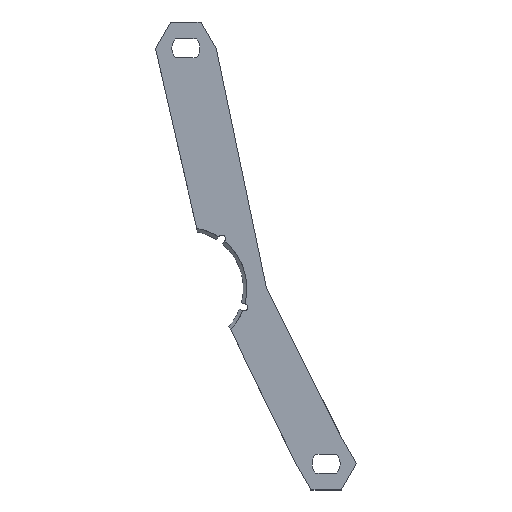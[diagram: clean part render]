
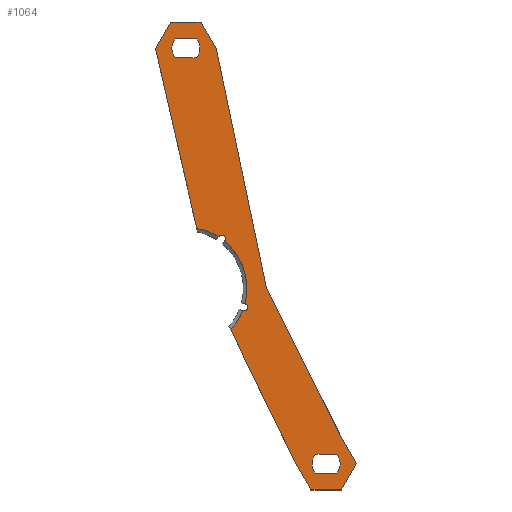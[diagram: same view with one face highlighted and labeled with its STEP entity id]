
A CAD part, top view. The second image highlights one B-rep face of the part: STEP entity #1064.
In plain terms, the highlighted planar face has unit normal (0, 0, 1) as drawn and (0, 0, -1) by its records, which use the part's own axes.
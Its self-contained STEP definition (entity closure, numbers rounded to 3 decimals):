
#41=FACE_BOUND('',#240,.T.);
#42=FACE_BOUND('',#241,.T.);
#92=CIRCLE('',#1086,8.);
#94=CIRCLE('',#1090,8.);
#96=CIRCLE('',#1094,8.);
#98=CIRCLE('',#1098,8.);
#100=CIRCLE('',#1102,2.);
#103=CIRCLE('',#1109,2.);
#107=CIRCLE('',#1121,34.84);
#114=CIRCLE('',#1134,34.84);
#118=CIRCLE('',#1145,34.84);
#185=FACE_OUTER_BOUND('',#239,.T.);
#239=EDGE_LOOP('',(#960,#961,#962,#963,#964,#965,#966,#967,#968,#969,#970,
#971,#972,#973,#974,#975,#976,#977,#978,#979));
#240=EDGE_LOOP('',(#980,#981,#982,#983));
#241=EDGE_LOOP('',(#984,#985,#986,#987));
#244=LINE('',#1459,#334);
#248=LINE('',#1471,#338);
#252=LINE('',#1483,#342);
#256=LINE('',#1495,#346);
#262=LINE('',#1527,#352);
#266=LINE('',#1539,#356);
#274=LINE('',#1606,#364);
#278=LINE('',#1618,#368);
#294=LINE('',#1835,#384);
#308=LINE('',#1863,#398);
#311=LINE('',#1868,#401);
#319=LINE('',#1885,#409);
#322=LINE('',#1890,#412);
#323=LINE('',#1892,#413);
#324=LINE('',#1895,#414);
#326=LINE('',#1898,#416);
#327=LINE('',#1901,#417);
#329=LINE('',#1905,#419);
#331=LINE('',#1908,#421);
#334=VECTOR('',#1185,10.);
#338=VECTOR('',#1197,10.);
#342=VECTOR('',#1209,10.);
#346=VECTOR('',#1221,10.);
#352=VECTOR('',#1235,10.);
#356=VECTOR('',#1247,10.);
#364=VECTOR('',#1261,10.);
#368=VECTOR('',#1273,10.);
#384=VECTOR('',#1363,10.);
#398=VECTOR('',#1383,10.);
#401=VECTOR('',#1388,10.);
#409=VECTOR('',#1402,10.);
#412=VECTOR('',#1407,10.);
#413=VECTOR('',#1410,10.);
#414=VECTOR('',#1413,10.);
#416=VECTOR('',#1417,10.);
#417=VECTOR('',#1420,10.);
#419=VECTOR('',#1424,10.);
#421=VECTOR('',#1428,10.);
#424=VERTEX_POINT('',#1456);
#425=VERTEX_POINT('',#1458);
#427=VERTEX_POINT('',#1464);
#429=VERTEX_POINT('',#1470);
#432=VERTEX_POINT('',#1480);
#433=VERTEX_POINT('',#1482);
#435=VERTEX_POINT('',#1488);
#437=VERTEX_POINT('',#1494);
#446=VERTEX_POINT('',#1524);
#447=VERTEX_POINT('',#1526);
#449=VERTEX_POINT('',#1532);
#451=VERTEX_POINT('',#1538);
#466=VERTEX_POINT('',#1603);
#467=VERTEX_POINT('',#1605);
#469=VERTEX_POINT('',#1611);
#471=VERTEX_POINT('',#1617);
#485=VERTEX_POINT('',#1703);
#494=VERTEX_POINT('',#1746);
#503=VERTEX_POINT('',#1834);
#513=VERTEX_POINT('',#1860);
#514=VERTEX_POINT('',#1862);
#515=VERTEX_POINT('',#1866);
#520=VERTEX_POINT('',#1882);
#521=VERTEX_POINT('',#1884);
#522=VERTEX_POINT('',#1888);
#523=VERTEX_POINT('',#1894);
#524=VERTEX_POINT('',#1900);
#525=VERTEX_POINT('',#1904);
#528=EDGE_CURVE('',#425,#424,#244,.T.);
#531=EDGE_CURVE('',#427,#425,#92,.T.);
#534=EDGE_CURVE('',#429,#427,#248,.T.);
#537=EDGE_CURVE('',#424,#429,#94,.T.);
#540=EDGE_CURVE('',#433,#432,#252,.T.);
#543=EDGE_CURVE('',#435,#433,#96,.T.);
#546=EDGE_CURVE('',#437,#435,#256,.T.);
#549=EDGE_CURVE('',#432,#437,#98,.T.);
#558=EDGE_CURVE('',#447,#446,#262,.T.);
#561=EDGE_CURVE('',#449,#447,#100,.T.);
#564=EDGE_CURVE('',#451,#449,#266,.T.);
#582=EDGE_CURVE('',#467,#466,#274,.T.);
#585=EDGE_CURVE('',#469,#467,#103,.T.);
#588=EDGE_CURVE('',#471,#469,#278,.T.);
#610=EDGE_CURVE('',#485,#471,#107,.T.);
#625=EDGE_CURVE('',#446,#494,#114,.T.);
#635=EDGE_CURVE('',#466,#451,#118,.T.);
#642=EDGE_CURVE('',#503,#485,#294,.T.);
#656=EDGE_CURVE('',#514,#513,#308,.T.);
#659=EDGE_CURVE('',#513,#515,#311,.T.);
#667=EDGE_CURVE('',#521,#520,#319,.T.);
#670=EDGE_CURVE('',#520,#522,#322,.T.);
#671=EDGE_CURVE('',#522,#503,#323,.T.);
#672=EDGE_CURVE('',#523,#521,#324,.T.);
#674=EDGE_CURVE('',#515,#523,#326,.T.);
#675=EDGE_CURVE('',#524,#514,#327,.T.);
#677=EDGE_CURVE('',#525,#524,#329,.T.);
#679=EDGE_CURVE('',#494,#525,#331,.T.);
#960=ORIENTED_EDGE('',*,*,#625,.T.);
#961=ORIENTED_EDGE('',*,*,#679,.T.);
#962=ORIENTED_EDGE('',*,*,#677,.T.);
#963=ORIENTED_EDGE('',*,*,#675,.T.);
#964=ORIENTED_EDGE('',*,*,#656,.T.);
#965=ORIENTED_EDGE('',*,*,#659,.T.);
#966=ORIENTED_EDGE('',*,*,#674,.T.);
#967=ORIENTED_EDGE('',*,*,#672,.T.);
#968=ORIENTED_EDGE('',*,*,#667,.T.);
#969=ORIENTED_EDGE('',*,*,#670,.T.);
#970=ORIENTED_EDGE('',*,*,#671,.T.);
#971=ORIENTED_EDGE('',*,*,#642,.T.);
#972=ORIENTED_EDGE('',*,*,#610,.T.);
#973=ORIENTED_EDGE('',*,*,#588,.T.);
#974=ORIENTED_EDGE('',*,*,#585,.T.);
#975=ORIENTED_EDGE('',*,*,#582,.T.);
#976=ORIENTED_EDGE('',*,*,#635,.T.);
#977=ORIENTED_EDGE('',*,*,#564,.T.);
#978=ORIENTED_EDGE('',*,*,#561,.T.);
#979=ORIENTED_EDGE('',*,*,#558,.T.);
#980=ORIENTED_EDGE('',*,*,#534,.T.);
#981=ORIENTED_EDGE('',*,*,#531,.T.);
#982=ORIENTED_EDGE('',*,*,#528,.T.);
#983=ORIENTED_EDGE('',*,*,#537,.T.);
#984=ORIENTED_EDGE('',*,*,#546,.T.);
#985=ORIENTED_EDGE('',*,*,#543,.T.);
#986=ORIENTED_EDGE('',*,*,#540,.T.);
#987=ORIENTED_EDGE('',*,*,#549,.T.);
#1012=PLANE('',#1162);
#1064=ADVANCED_FACE('',(#185,#41,#42),#1012,.F.);
#1086=AXIS2_PLACEMENT_3D('',#1465,#1191,#1192);
#1090=AXIS2_PLACEMENT_3D('',#1475,#1203,#1204);
#1094=AXIS2_PLACEMENT_3D('',#1489,#1215,#1216);
#1098=AXIS2_PLACEMENT_3D('',#1499,#1227,#1228);
#1102=AXIS2_PLACEMENT_3D('',#1533,#1241,#1242);
#1109=AXIS2_PLACEMENT_3D('',#1612,#1267,#1268);
#1121=AXIS2_PLACEMENT_3D('',#1705,#1300,#1301);
#1134=AXIS2_PLACEMENT_3D('',#1749,#1329,#1330);
#1145=AXIS2_PLACEMENT_3D('',#1820,#1351,#1352);
#1162=AXIS2_PLACEMENT_3D('',#1909,#1429,#1430);
#1185=DIRECTION('',(-1.,0.,0.));
#1191=DIRECTION('center_axis',(0.,0.,1.));
#1192=DIRECTION('ref_axis',(1.,0.,0.));
#1197=DIRECTION('',(1.,0.,0.));
#1203=DIRECTION('center_axis',(0.,0.,1.));
#1204=DIRECTION('ref_axis',(1.,0.,0.));
#1209=DIRECTION('',(-1.,0.,0.));
#1215=DIRECTION('center_axis',(0.,0.,1.));
#1216=DIRECTION('ref_axis',(-1.,0.,0.));
#1221=DIRECTION('',(1.,0.,0.));
#1227=DIRECTION('center_axis',(0.,0.,1.));
#1228=DIRECTION('ref_axis',(-1.,0.,0.));
#1235=DIRECTION('',(0.951,0.309,0.));
#1241=DIRECTION('center_axis',(0.,0.,1.));
#1242=DIRECTION('ref_axis',(0.,1.,0.));
#1247=DIRECTION('',(-0.951,-0.309,0.));
#1261=DIRECTION('',(0.588,-0.809,0.));
#1267=DIRECTION('center_axis',(0.,0.,1.));
#1268=DIRECTION('ref_axis',(0.,1.,0.));
#1273=DIRECTION('',(-0.588,0.809,0.));
#1300=DIRECTION('center_axis',(0.,0.,1.));
#1301=DIRECTION('ref_axis',(0.,1.,0.));
#1329=DIRECTION('center_axis',(0.,0.,1.));
#1330=DIRECTION('ref_axis',(0.,1.,0.));
#1351=DIRECTION('center_axis',(0.,0.,1.));
#1352=DIRECTION('ref_axis',(0.,1.,0.));
#1363=DIRECTION('',(-0.223,-0.975,0.));
#1383=DIRECTION('',(-0.5,0.866,0.));
#1388=DIRECTION('',(0.5,0.866,0.));
#1402=DIRECTION('',(0.5,0.866,0.));
#1407=DIRECTION('',(1.,0.,0.));
#1410=DIRECTION('',(0.5,-0.866,0.));
#1413=DIRECTION('',(0.205,0.979,0.));
#1417=DIRECTION('',(0.448,0.894,0.));
#1420=DIRECTION('',(-1.,0.,0.));
#1424=DIRECTION('',(-0.5,-0.866,0.));
#1428=DIRECTION('',(-0.437,-0.899,0.));
#1429=DIRECTION('center_axis',(0.,0.,1.));
#1430=DIRECTION('ref_axis',(1.,0.,0.));
#1456=CARTESIAN_POINT('',(-85.809,-94.5,-10.));
#1458=CARTESIAN_POINT('',(-74.191,-94.5,-10.));
#1459=CARTESIAN_POINT('',(-57.095,-94.5,-10.));
#1464=CARTESIAN_POINT('',(-74.191,-105.5,-10.));
#1465=CARTESIAN_POINT('Origin',(-80.,-100.,-10.));
#1470=CARTESIAN_POINT('',(-85.809,-105.5,-10.));
#1471=CARTESIAN_POINT('',(-62.905,-105.5,-10.));
#1475=CARTESIAN_POINT('Origin',(-80.,-100.,-10.));
#1480=CARTESIAN_POINT('',(-5.809,142.354,-10.));
#1482=CARTESIAN_POINT('',(5.809,142.354,-10.));
#1483=CARTESIAN_POINT('',(-22.905,142.354,-10.));
#1488=CARTESIAN_POINT('',(5.809,131.354,-10.));
#1489=CARTESIAN_POINT('Origin',(0.,136.854,-10.));
#1494=CARTESIAN_POINT('',(-5.809,131.354,-10.));
#1495=CARTESIAN_POINT('',(-17.095,131.354,-10.));
#1499=CARTESIAN_POINT('Origin',(0.,136.854,-10.));
#1524=CARTESIAN_POINT('',(-32.463,-12.65,-10.));
#1526=CARTESIAN_POINT('',(-32.615,-12.699,-10.));
#1527=CARTESIAN_POINT('',(-31.381,-12.298,-10.));
#1532=CARTESIAN_POINT('',(-33.85,-8.897,-10.));
#1533=CARTESIAN_POINT('Origin',(-33.287,-10.816,-10.));
#1538=CARTESIAN_POINT('',(-33.698,-8.847,-10.));
#1539=CARTESIAN_POINT('',(-31.493,-8.131,-10.));
#1603=CARTESIAN_POINT('',(-22.061,26.964,-10.));
#1605=CARTESIAN_POINT('',(-22.156,27.094,-10.));
#1606=CARTESIAN_POINT('',(-23.178,28.501,-10.));
#1611=CARTESIAN_POINT('',(-18.922,29.444,-10.));
#1612=CARTESIAN_POINT('Origin',(-20.572,28.316,-10.));
#1617=CARTESIAN_POINT('',(-18.827,29.314,-10.));
#1618=CARTESIAN_POINT('',(-19.249,29.895,-10.));
#1703=CARTESIAN_POINT('',(-6.184,34.286,-10.));
#1705=CARTESIAN_POINT('Origin',(0.,-0.001,
-10.));
#1746=CARTESIAN_POINT('',(-25.558,-23.678,-10.));
#1749=CARTESIAN_POINT('Origin',(0.,-0.001,
-10.));
#1820=CARTESIAN_POINT('Origin',(0.,-0.001,
-10.));
#1834=CARTESIAN_POINT('',(17.321,136.854,-10.));
#1835=CARTESIAN_POINT('',(-14.041,0.,-10.));
#1860=CARTESIAN_POINT('',(-97.321,-100.,-10.));
#1862=CARTESIAN_POINT('',(-88.66,-115.,-10.));
#1863=CARTESIAN_POINT('',(-97.321,-100.,-10.));
#1866=CARTESIAN_POINT('',(-88.66,-85.,-10.));
#1868=CARTESIAN_POINT('',(-88.66,-85.,-10.));
#1882=CARTESIAN_POINT('',(-8.66,151.854,-10.));
#1884=CARTESIAN_POINT('',(-17.321,136.854,-10.));
#1885=CARTESIAN_POINT('',(-8.66,151.854,-10.));
#1888=CARTESIAN_POINT('',(8.66,151.854,-10.));
#1890=CARTESIAN_POINT('',(8.66,151.854,-10.));
#1892=CARTESIAN_POINT('',(17.321,136.854,-10.));
#1894=CARTESIAN_POINT('',(-46.023,0.,-10.));
#1895=CARTESIAN_POINT('',(-46.023,0.,-10.));
#1898=CARTESIAN_POINT('',(-88.66,-85.,-10.));
#1900=CARTESIAN_POINT('',(-71.34,-115.,-10.));
#1901=CARTESIAN_POINT('',(-88.66,-115.,-10.));
#1904=CARTESIAN_POINT('',(-62.679,-100.,-10.));
#1905=CARTESIAN_POINT('',(-71.34,-115.,-10.));
#1908=CARTESIAN_POINT('',(-62.679,-100.,-10.));
#1909=CARTESIAN_POINT('Origin',(-40.,18.427,-10.));
